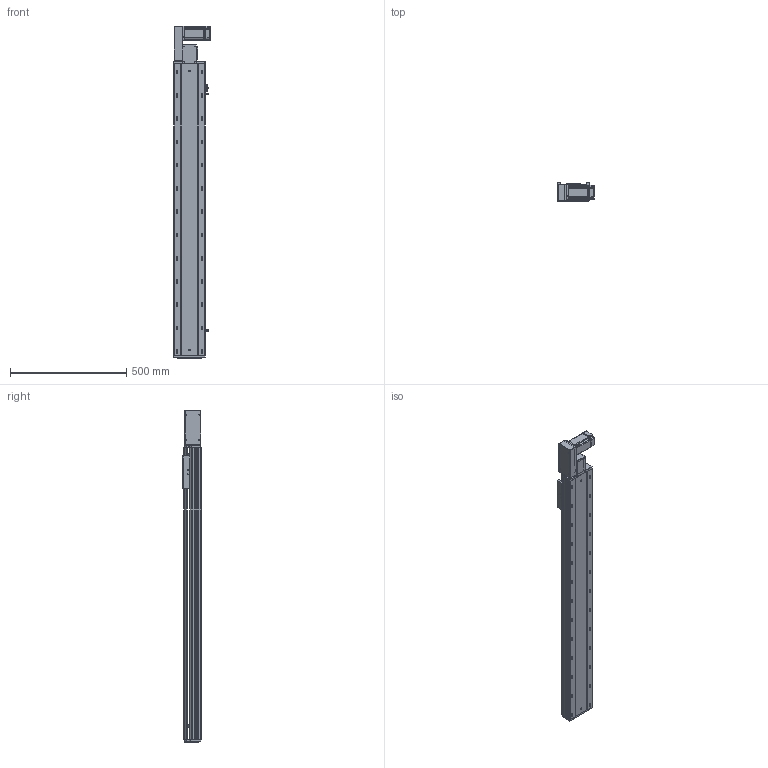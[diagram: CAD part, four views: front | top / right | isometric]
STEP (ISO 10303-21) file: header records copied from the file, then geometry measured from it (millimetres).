
FILE_DESCRIPTION (( 'STEP AP203' ), '1' );
FILE_NAME ('RY140-T-300-LK.SLDASM_1000.step', '2021-03-01T06:35:34', ( '盈信电脑' ), ( '东莞市道滘镇水果街19号' ), 'SwSTEP 2.0', 'SolidWorks 2012', '' );
FILE_SCHEMA (( 'CONFIG_CONTROL_DESIGN' ));
Length unit declared in the file: millimetre
Products named in the file (18): RY140-T-300-DL倰第菁釱_1000; RY140肮祭謫臏賑輸; RY140-T-300-LK.SLDASM_1000; RY140-T翋肮謫裔啣; 滅袉蝶18-10; RY140-T萇儂欶; RY120-T蹟翐M4; 侂狟400W侜督萇儂; RY120-T主同步轮轴承压盖; 15; RY120-T肮祭湍揤踡輸2; RY120-T肮祭湍揤踡輸1; RY140-T翋肮祭謫盓傅釱; RY140-T萇儂假蚾啣; RY120外置感应片(140共用）; 覜茼ん672; RY140綴裔啣; RY140-T-300-DL倰第奻裔啣_1000
Assembly tree (23 placements, depth 3):
  RY140-T-300-LK.SLDASM_1000
    RY140-T-300-DL倰第菁釱_1000
    RY140肮祭謫臏賑輸
    RY140-T-300-DL倰第奻裔啣_1000
    RY140綴裔啣
    覜茼ん672  x3
    RY120外置感应片(140共用）
    RY120-T肮祭湍揤踡輸2
    RY120-T肮祭湍揤踡輸1
    RY140-T翋肮祭謫盓傅釱
    RY140-T萇儂假蚾啣
    侂狟400W侜督萇儂
      15
    RY120-T主同步轮轴承压盖
    RY120-T蹟翐M4  x4
    RY140-T萇儂欶
    滅袉蝶18-10  x2
    RY140-T翋肮謫裔啣
Bounding box: 157 x 78 x 1426.5 mm (x, y, z)
Volume: 3988029.9 mm3; surface area: 1525548.4 mm2
Topology: 22 solids, 22 shells, 2771 faces, 7669 edges, 4926 vertices
Faces by surface type: plane 1385, cylinder 1064, cone 222, bspline 100
Entity records: 88713 total; most frequent: CARTESIAN_POINT 21873, ORIENTED_EDGE 13818, DIRECTION 13029, EDGE_CURVE 6909, VERTEX_POINT 4525, AXIS2_PLACEMENT_3D 4352, LINE 4325, VECTOR 4325
